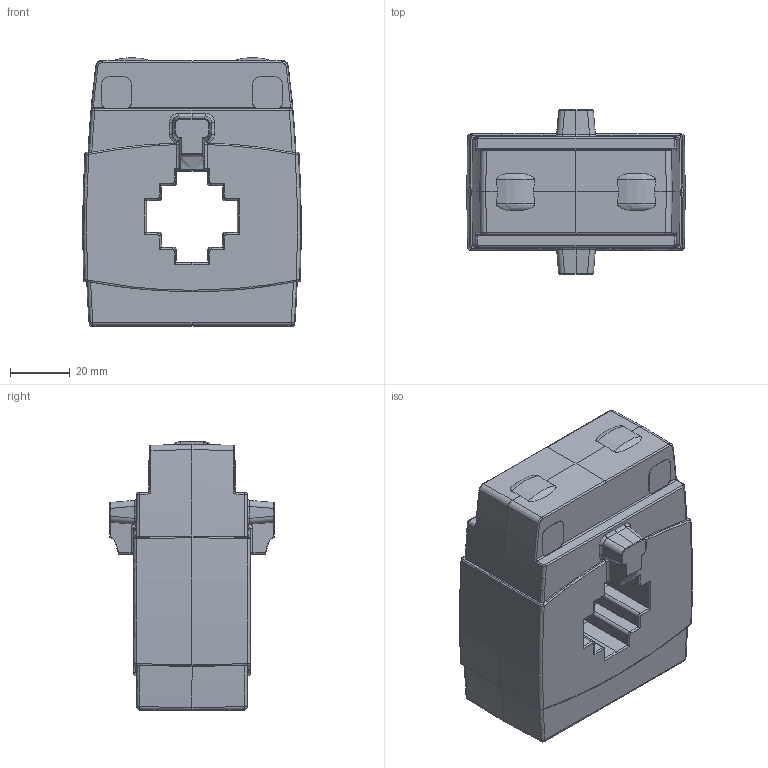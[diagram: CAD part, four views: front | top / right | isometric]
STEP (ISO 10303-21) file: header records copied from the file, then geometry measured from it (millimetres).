
FILE_DESCRIPTION(/* description */ (''),/* implementation_level */ '2;1');
FILE_NAME(/* name */ 'ENT.A30_ICIDOLU_x_t.stp',/* time_stamp */ '2021-03-18T11:13:26+03:00',/* author */ (''),/* organization */ (''),/* preprocessor_version */ 'ST-DEVELOPER v16',/* originating_system */ 'SIEMENS PLM Software NX 11.0',/* authorisation */ '');
FILE_SCHEMA (('AUTOMOTIVE_DESIGN { 1 0 10303 214 3 1 1 1 }'));
Length unit declared in the file: millimetre
Products named in the file (1): ENT.A30_ICIDOLU_x_t
Bounding box: 73.3 x 55 x 90.08 mm (x, y, z)
Volume: 206076.3 mm3; surface area: 27879.1 mm2
Topology: 1 solids, 1 shells, 401 faces, 973 edges, 568 vertices
Faces by surface type: cylinder 140, plane 119, bspline 96, torus 24, cone 16, sphere 4, extrusion 2
Entity records: 13391 total; most frequent: CARTESIAN_POINT 4738, ORIENTED_EDGE 1938, DIRECTION 1643, EDGE_CURVE 969, AXIS2_PLACEMENT_3D 609, VERTEX_POINT 568, VECTOR 425, LINE 423
